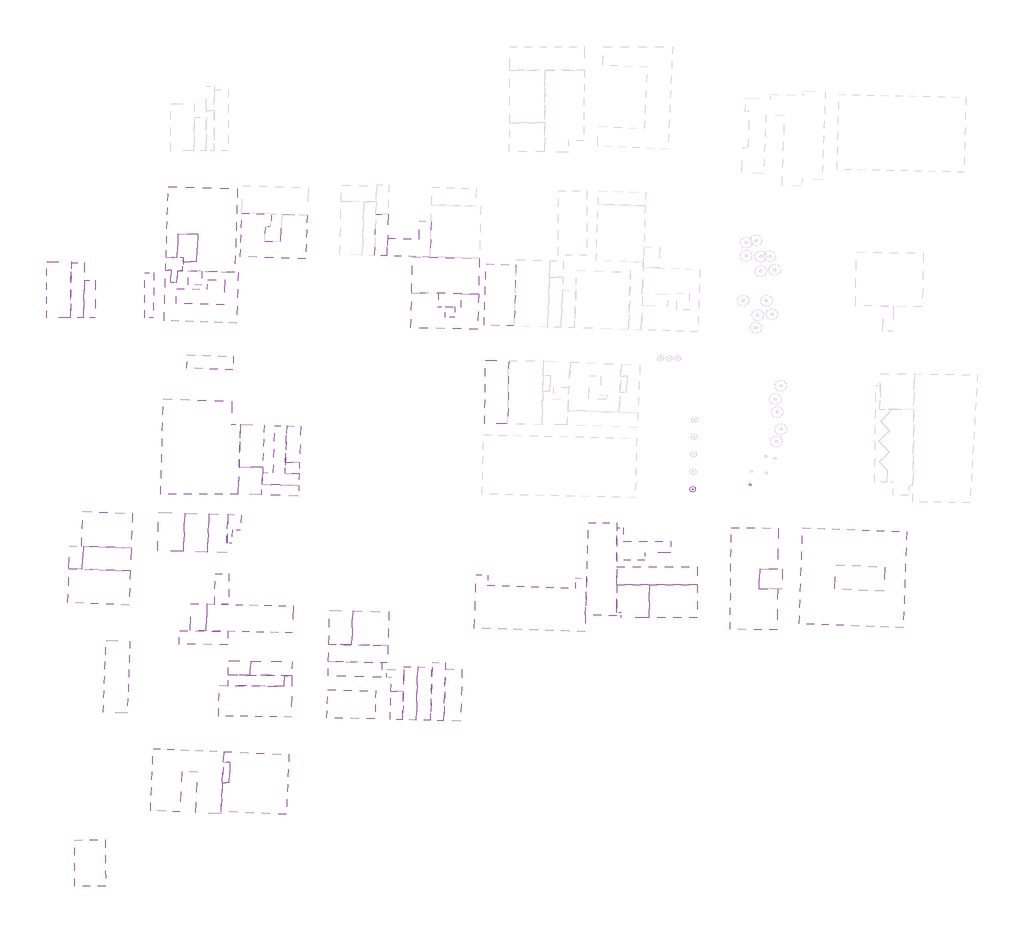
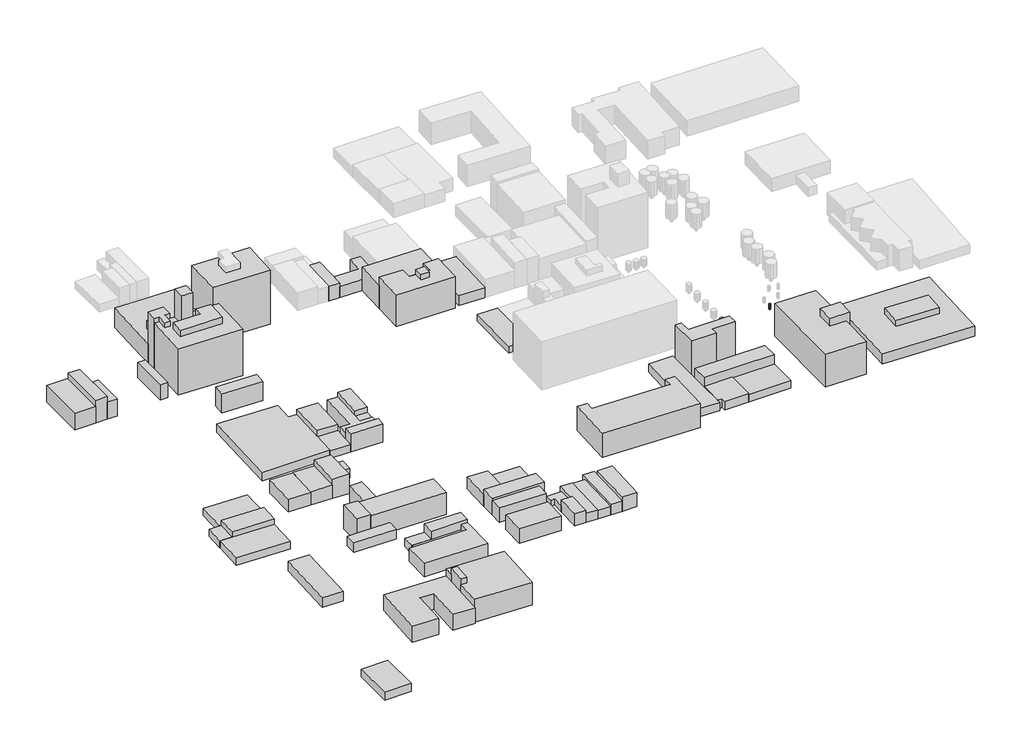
# One storey, part 1 of 4: 71 proxies.
"""IFC4 building model written with IfcOpenShell, lengths in millimetres."""

from ifc_helpers import new_model, si_unit, frame, origin, place, context, project, spatial, polyline, outline, extrude, triangles, element, save

model = new_model("IFC4")

# Units and contexts
model_context = context("Model", 3, world=origin())
ifc_project = project(units=[si_unit("LENGTHUNIT", "METRE", prefix="MILLI")], contexts=[model_context])

# Site, building, storey
site = spatial("IfcSite", under=ifc_project)
building = spatial("IfcBuilding", under=site)
storey = spatial("IfcBuildingStorey", under=building, Name="Terrain Minimum Level", Elevation=-10557.5420791)

# Proxies
placement = place(None, origin())
element("IfcBuildingElementProxy", 1, Name="Generic Models", at=placement, inside=storey, context=model_context, shape_type="Tessellation", body=[
    triangles([(90026.0211914, -6549.0461838, -1683.1694996), (90026.0211914, -6244.2461838, -1683.1694996), (89914.46521, -6132.6820633, -1683.1694996), (89762.06521, -6091.8461838, -1683.1694996), (89609.66521, -6132.6820633, -1683.1694996), (89609.66521, -6660.6108856, -1683.1694996), (89914.46521, -6660.6108856, -1683.1694996), (89762.06521, -6701.4461838, -1683.1694996), (89914.46521, -6660.6108856, -3207.1696449), (89762.06521, -6701.4461838, -3207.1696449), (89498.0999268, -6549.0461838, -3207.1696449), (89762.06521, -6091.8461838, -3207.1696449), (89914.46521, -6132.6820633, -3207.1696449), (90026.0211914, -6244.2461838, -3207.1696449), (90066.86521, -6396.6461838, -3207.1696449), (90026.0211914, -6549.0461838, -3207.1696449), (90066.86521, -6396.6461838, -1683.1694996), (89609.66521, -6132.6820633, -3207.1696449), (89498.0999268, -6244.2461838, -3207.1696449), (89498.0999268, -6244.2461838, -1683.1694996), (89457.26521, -6396.6461838, -3207.1696449), (89498.0999268, -6549.0461838, -1683.1694996), (89457.26521, -6396.6461838, -1683.1694996), (89609.66521, -6660.6108856, -3207.1696449)], [[16, 17, 1], [16, 15, 17], [9, 1, 7], [9, 16, 1], [10, 7, 8], [10, 9, 7], [24, 8, 6], [24, 10, 8], [11, 6, 22], [11, 24, 6], [21, 22, 23], [21, 11, 22], [19, 23, 20], [19, 21, 23], [18, 20, 5], [18, 19, 20], [12, 5, 4], [12, 18, 5], [13, 4, 3], [13, 12, 4], [14, 3, 2], [14, 13, 3], [15, 2, 17], [15, 14, 2], [14, 15, 16], [12, 13, 14], [19, 18, 12], [11, 21, 19], [10, 24, 11], [16, 9, 10], [12, 14, 16], [11, 19, 12], [16, 10, 11], [11, 12, 16], [1, 4, 22], [22, 8, 1], [4, 20, 22], [1, 2, 4], [8, 7, 1], [22, 6, 8], [20, 23, 22], [4, 5, 20], [2, 3, 4], [1, 17, 2]]),
])
element("IfcBuildingElementProxy", 2, Name="Generic Models", at=placement, inside=storey, context=model_context, shape_type="Tessellation", body=[
    triangles([(91081.8823242, -7158.6467651, 2888.8306458), (91081.8823242, -5634.6461838, 2888.8306458), (90524.06521, -5076.8238373, 2888.8306458), (89762.06521, -4872.6464745, 2888.8306458), (89000.06521, -5076.8238373, 2888.8306458), (89000.06521, -7716.4691116, 2888.8306458), (90524.06521, -7716.4691116, 2888.8306458), (89762.06521, -7920.6467651, 2888.8306458), (90524.06521, -7716.4691116, -1683.1694996), (89762.06521, -7920.6467651, -1683.1694996), (88442.2387939, -7158.6467651, -1683.1694996), (89762.06521, -4872.6464745, -1683.1694996), (90524.06521, -5076.8238373, -1683.1694996), (91081.8823242, -5634.6461838, -1683.1694996), (91286.06521, -6396.6461838, -1683.1694996), (91081.8823242, -7158.6467651, -1683.1694996), (91286.06521, -6396.6461838, 2888.8306458), (89000.06521, -5076.8238373, -1683.1694996), (88442.2387939, -5634.6461838, -1683.1694996), (88442.2387939, -5634.6461838, 2888.8306458), (88238.06521, -6396.6461838, -1683.1694996), (88442.2387939, -7158.6467651, 2888.8306458), (88238.06521, -6396.6461838, 2888.8306458), (89000.06521, -7716.4691116, -1683.1694996)], [[16, 17, 1], [16, 15, 17], [9, 1, 7], [9, 16, 1], [10, 7, 8], [10, 9, 7], [24, 8, 6], [24, 10, 8], [11, 6, 22], [11, 24, 6], [21, 22, 23], [21, 11, 22], [19, 23, 20], [19, 21, 23], [18, 20, 5], [18, 19, 20], [12, 5, 4], [12, 18, 5], [13, 4, 3], [13, 12, 4], [14, 3, 2], [14, 13, 3], [15, 2, 17], [15, 14, 2], [14, 15, 16], [12, 13, 14], [19, 18, 12], [11, 21, 19], [10, 24, 11], [16, 9, 10], [12, 14, 16], [11, 19, 12], [16, 10, 11], [11, 12, 16], [1, 4, 22], [22, 8, 1], [4, 20, 22], [1, 2, 4], [8, 7, 1], [22, 6, 8], [20, 23, 22], [4, 5, 20], [2, 3, 4], [1, 17, 2]]),
])
element("IfcBuildingElementProxy", 3, Name="Generic Models", at=placement, inside=storey, context=model_context, shape_type="Tessellation", body=[
    triangles([(120338.1058594, -4359.3138542, 441.9999104), (120338.1058594, -3749.7138542, 441.9999104), (120114.975293, -3526.5847412, 441.9999104), (119810.175293, -3444.9138542, 441.9999104), (119505.375293, -3526.5847412, 441.9999104), (119505.375293, -4582.4426765, 441.9999104), (120114.975293, -4582.4426765, 441.9999104), (119810.175293, -4664.1138542, 441.9999104), (120114.975293, -4582.4426765, -2606.000235), (119810.175293, -4664.1138542, -2606.000235), (119282.2447266, -4359.3138542, -2606.000235), (119810.175293, -3444.9138542, -2606.000235), (120114.975293, -3526.5847412, -2606.000235), (120338.1058594, -3749.7138542, -2606.000235), (120419.775293, -4054.5138542, -2606.000235), (120338.1058594, -4359.3138542, -2606.000235), (120419.775293, -4054.5138542, 441.9999104), (119505.375293, -3526.5847412, -2606.000235), (119282.2447266, -3749.7138542, -2606.000235), (119282.2447266, -3749.7138542, 441.9999104), (119200.575293, -4054.5138542, -2606.000235), (119282.2447266, -4359.3138542, 441.9999104), (119200.575293, -4054.5138542, 441.9999104), (119505.375293, -4582.4426765, -2606.000235)], [[16, 17, 1], [16, 15, 17], [9, 1, 7], [9, 16, 1], [10, 7, 8], [10, 9, 7], [24, 8, 6], [24, 10, 8], [11, 6, 22], [11, 24, 6], [21, 22, 23], [21, 11, 22], [19, 23, 20], [19, 21, 23], [18, 20, 5], [18, 19, 20], [12, 5, 4], [12, 18, 5], [13, 4, 3], [13, 12, 4], [14, 3, 2], [14, 13, 3], [15, 2, 17], [15, 14, 2], [14, 15, 16], [12, 13, 14], [19, 18, 12], [11, 21, 19], [10, 24, 11], [16, 9, 10], [12, 14, 16], [11, 19, 12], [16, 10, 11], [11, 12, 16], [1, 4, 22], [22, 8, 1], [4, 20, 22], [1, 2, 4], [8, 7, 1], [22, 6, 8], [20, 23, 22], [4, 5, 20], [2, 3, 4], [1, 17, 2]]),
])
element("IfcBuildingElementProxy", 4, Name="Generic Models", at=placement, inside=storey, context=model_context, shape_type="SweptSolid", body=[
    extrude(outline(polyline([(-229472.4761022, 83578.9634419), (-236326.5440598, 83604.1081294), (-236221.0179102, 112368.9675697), (-229366.9517912, 112343.8228889), (-229472.4761022, 83578.9634419)])), frame((0.0, 0.0, -3968.6315109), z_axis=(0.0, 0.0, 1.0), x_axis=(1.0, 0.0, 0.0)), (0.0, 0.0, 1.0), 14325.6),
])
element("IfcBuildingElementProxy", 5, Name="Generic Models", at=placement, inside=storey, context=model_context, shape_type="SweptSolid", body=[
    extrude(outline(polyline([(-236326.5440967, 83604.1077177), (-249073.6874552, 83650.8714099), (-248965.9336945, 113023.0738584), (-236218.7903361, 112976.3101662), (-236326.5440967, 83604.1077177)])), frame((0.0, 0.0, -3968.6313461), z_axis=(0.0, 0.0, 1.0), x_axis=(1.0, 0.0, 0.0)), (0.0, 0.0, 1.0), 10363.2),
])
element("IfcBuildingElementProxy", 6, Name="Generic Models", at=placement, inside=storey, context=model_context, shape_type="SweptSolid", body=[
    extrude(outline(polyline([(-120311.6903766, -96774.2754631), (-120412.1610448, -104194.024731), (-142158.5238174, -103899.5576918), (-142058.0531492, -96479.808424), (-120311.6903766, -96774.2754631)])), frame((0.0, 0.0, -2785.109722), z_axis=(0.0, 0.0, 1.0), x_axis=(1.0, 0.0, 0.0)), (0.0, 0.0, 1.0), 10363.2),
])
element("IfcBuildingElementProxy", 7, Name="Generic Models", at=placement, inside=storey, context=model_context, shape_type="SweptSolid", body=[
    extrude(outline(polyline([(-120412.1615022, -104194.0246936), (-120705.9016591, -125886.7410956), (-158771.5980123, -125371.2951085), (-158553.6381753, -109274.9819238), (-124458.3389563, -109736.6649309), (-124382.5581785, -104140.2617199), (-120412.1615022, -104194.0246936)])), frame((0.0, 0.0, -2785.1098158), z_axis=(0.0, 0.0, 1.0), x_axis=(1.0, 0.0, 0.0)), (0.0, 0.0, 1.0), 8534.4),
])
element("IfcBuildingElementProxy", 8, Name="Generic Models", at=placement, inside=storey, context=model_context, shape_type="SweptSolid", body=[
    extrude(outline(polyline([(-124382.5577816, -104140.2618905), (-124458.3386501, -109736.6650125), (-153808.1387657, -109339.2403739), (-153732.3580508, -103742.8363822), (-124382.5577816, -104140.2618905)])), frame((0.0, 0.0, -2785.1098089), z_axis=(0.0, 0.0, 1.0), x_axis=(1.0, 0.0, 0.0)), (0.0, 0.0, 1.0), 5133.7580057),
])
element("IfcBuildingElementProxy", 9, Name="Generic Models", at=placement, inside=storey, context=model_context, shape_type="SweptSolid", body=[
    extrude(outline(polyline([(-142058.0526914, -96479.8084302), (-142158.5241867, -103899.5575961), (-153732.3578943, -103742.8363106), (-153631.8870545, -96323.086091), (-142058.0526914, -96479.8084302)])), frame((0.0, 0.0, -2785.109722), z_axis=(0.0, 0.0, 1.0), x_axis=(1.0, 0.0, 0.0)), (0.0, 0.0, 1.0), 5181.6),
])
element("IfcBuildingElementProxy", 10, Name="Generic Models", at=placement, inside=storey, context=model_context, shape_type="SweptSolid", body=[
    extrude(outline(polyline([(-153964.7423959, -80918.1443134), (-154063.7219919, -87987.4529924), (-179414.6113594, -87632.5072825), (-179315.6317634, -80563.1986034), (-153964.7423959, -80918.1443134)])), frame((0.0, 0.0, -2785.1097357), z_axis=(0.0, 0.0, 1.0), x_axis=(1.0, 0.0, 0.0)), (0.0, 0.0, 1.0), 6045.8498396),
])
element("IfcBuildingElementProxy", 11, Name="Generic Models", at=placement, inside=storey, context=model_context, shape_type="SweptSolid", body=[
    extrude(outline(polyline([(-164976.1136014, -66519.3231536), (-165306.0944516, -80653.3625556), (-173686.9124185, -80457.6994929), (-173356.9315682, -66323.6600909), (-164976.1136014, -66519.3231536)])), frame((0.0, 0.0, -2785.1097357), z_axis=(0.0, 0.0, 1.0), x_axis=(1.0, 0.0, 0.0)), (0.0, 0.0, 1.0), 15171.2737562),
])
element("IfcBuildingElementProxy", 12, Name="Generic Models", at=placement, inside=storey, context=model_context, shape_type="SweptSolid", body=[
    extrude(outline(polyline([(-153691.1134574, -66782.7889507), (-160896.1576048, -66656.9743523), (-160616.2716015, -50628.699124), (-153411.2274536, -50754.513692), (-153691.1134574, -66782.7889507)])), frame((0.0, 0.0, -2785.1097357), z_axis=(0.0, 0.0, 1.0), x_axis=(1.0, 0.0, 0.0)), (0.0, 0.0, 1.0), 13388.1030585),
])
element("IfcBuildingElementProxy", 13, Name="Generic Models", at=placement, inside=storey, context=model_context, shape_type="SweptSolid", body=[
    extrude(outline(polyline([(49913.4203683, -43688.5119676), (49912.7935381, -26543.3285021), (53442.3089616, -26543.1994625), (53442.5679043, -33625.8508985), (78405.4840492, -33624.938251), (78405.7018935, -39583.4572914), (64647.6013196, -39583.9602893), (64647.7513629, -43687.9732785), (49913.4203683, -43688.5119676)])), frame((0.0, 0.0, -1386.9867751), z_axis=(0.0, 0.0, 1.0), x_axis=(1.0, 0.0, 0.0)), (0.0, 0.0, 1.0), 26517.6),
])
element("IfcBuildingElementProxy", 14, Name="Generic Models", at=placement, inside=storey, context=model_context, shape_type="SweptSolid", body=[
    extrude(outline(polyline([(49912.6984051, -23963.2947936), (49914.4826176, -72775.0355391), (33601.4820036, -72230.8324956), (35211.6731086, -23963.8321593), (49912.6984051, -23963.2947936)])), frame((0.0, 0.0, -1386.98665), z_axis=(0.0, 0.0, 1.0), x_axis=(1.0, 0.0, 0.0)), (0.0, 0.0, 1.0), 5181.6),
])
element("IfcBuildingElementProxy", 15, Name="Generic Models", at=placement, inside=storey, context=model_context, shape_type="SweptSolid", body=[
    extrude(outline(polyline([(34238.8900751, -53123.9339391), (33601.482448, -72230.8327994), (33304.4615296, -81134.3168566), (-24634.1443817, -79201.4804719), (-23699.7158361, -51191.0975544), (-17682.3759177, -51391.8364805), (-17857.4841881, -56640.8731554), (28414.963928, -58184.5256117), (28590.0721984, -52935.4889368), (34238.8900751, -53123.9339391)])), frame((0.0, 0.0, -1386.9866969), z_axis=(0.0, 0.0, 1.0), x_axis=(1.0, 0.0, 0.0)), (0.0, 0.0, 1.0), 15240.0),
])
element("IfcBuildingElementProxy", 16, Name="Generic Models", at=placement, inside=storey, context=model_context, shape_type="SweptSolid", body=[
    extrude(outline(polyline([(-100597.4201309, -69901.3917486), (-88498.0358619, -70198.4830037), (-88934.3597431, -87968.2766742), (-101033.7440121, -87671.185419), (-100597.4201309, -69901.3917486)])), frame((0.0, 0.0, -704.478343), z_axis=(0.0, 0.0, 1.0), x_axis=(1.0, 0.0, 0.0)), (0.0, 0.0, 1.0), 7620.0),
])
element("IfcBuildingElementProxy", 17, Name="Generic Models", at=placement, inside=storey, context=model_context, shape_type="SweptSolid", body=[
    extrude(outline(polyline([(-88498.0357233, -70198.4831982), (-69606.9612653, -70662.3390924), (-70043.2853959, -88432.1330512), (-88934.3594321, -87968.2771674), (-88498.0357233, -70198.4831982)])), frame((0.0, 0.0, -704.4782858), z_axis=(0.0, 0.0, 1.0), x_axis=(1.0, 0.0, 0.0)), (0.0, 0.0, 1.0), 3936.2892532),
])
element("IfcBuildingElementProxy", 18, Name="Generic Models", at=placement, inside=storey, context=model_context, shape_type="SweptSolid", body=[
    extrude(outline(polyline([(-101033.7441507, -87671.1852246), (-70043.2853182, -88432.1332285), (-70264.7088395, -97449.8547816), (-101255.1676963, -96688.9068541), (-101033.7441507, -87671.1852246)])), frame((0.0, 0.0, -704.4782858), z_axis=(0.0, 0.0, 1.0), x_axis=(1.0, 0.0, 0.0)), (0.0, 0.0, 1.0), 10668.0),
])
element("IfcBuildingElementProxy", 19, Name="Generic Models", at=placement, inside=storey, context=model_context, shape_type="SweptSolid", body=[
    extrude(outline(polyline([(-73213.6395074, -97377.4458781), (-73400.9303723, -105005.0788163), (-101442.4581909, -104316.5399156), (-101255.167326, -96688.9069774), (-73213.6395074, -97377.4458781)])), frame((0.0, 0.0, -704.4783964), z_axis=(0.0, 0.0, 1.0), x_axis=(1.0, 0.0, 0.0)), (0.0, 0.0, 1.0), 9144.0),
])
element("IfcBuildingElementProxy", 20, Name="Generic Models", at=placement, inside=storey, context=model_context, shape_type="SweptSolid", body=[
    extrude(outline(polyline([(-101620.5583474, -111569.8635551), (-76529.5626052, -112185.9542331), (-76890.4951511, -126885.3439462), (-101981.4908933, -126269.2532682), (-101620.5583474, -111569.8635551)])), frame((0.0, 0.0, -704.4784231), z_axis=(0.0, 0.0, 1.0), x_axis=(1.0, 0.0, 0.0)), (0.0, 0.0, 1.0), 9144.0000534),
])
element("IfcBuildingElementProxy", 21, Name="Generic Models", at=placement, inside=storey, context=model_context, shape_type="SweptSolid", body=[
    extrude(outline(polyline([(-68821.8425921, -127083.463329), (-68459.5385781, -112328.2213008), (-61922.6830679, -112488.728935), (-62284.9870819, -127243.9709632), (-68821.8425921, -127083.463329)])), frame((0.0, 0.0, -704.4784231), z_axis=(0.0, 0.0, 1.0), x_axis=(1.0, 0.0, 0.0)), (0.0, 0.0, 1.0), 7620.0),
])
element("IfcBuildingElementProxy", 22, Name="Generic Models", at=placement, inside=storey, context=model_context, shape_type="SweptSolid", body=[
    extrude(outline(polyline([(-61922.6831143, -112488.729036), (-68459.5385625, -112328.2214201), (-68282.8100024, -105130.7495455), (-70695.5837839, -105071.5056765), (-70591.3359178, -100825.8926069), (-61641.7066878, -101045.6440856), (-61922.6831143, -112488.729036)])), frame((0.0, 0.0, -704.4783659), z_axis=(0.0, 0.0, 1.0), x_axis=(1.0, 0.0, 0.0)), (0.0, 0.0, 1.0), 3657.6),
])
element("IfcBuildingElementProxy", 23, Name="Generic Models", at=placement, inside=storey, context=model_context, shape_type="SweptSolid", body=[
    extrude(outline(polyline([(-62284.9870865, -127243.9709069), (-61601.1995737, -99395.9405889), (-54459.7578912, -99571.293337), (-55143.5452257, -127419.3236594), (-62284.9870865, -127243.9709069)])), frame((0.0, 0.0, -704.4783659), z_axis=(0.0, 0.0, 1.0), x_axis=(1.0, 0.0, 0.0)), (0.0, 0.0, 1.0), 5791.2),
])
element("IfcBuildingElementProxy", 24, Name="Generic Models", at=placement, inside=storey, context=model_context, shape_type="SweptSolid", body=[
    extrude(outline(polyline([(-55143.5452508, -127419.3232176), (-54459.7579049, -99571.2931273), (-46901.7631009, -99756.8739813), (-47585.5504468, -127604.9040716), (-55143.5452508, -127419.3232176)])), frame((0.0, 0.0, -704.4784464), z_axis=(0.0, 0.0, 1.0), x_axis=(1.0, 0.0, 0.0)), (0.0, 0.0, 1.0), 5486.4),
])
element("IfcBuildingElementProxy", 25, Name="Generic Models", at=placement, inside=storey, context=model_context, shape_type="SweptSolid", body=[
    extrude(outline(polyline([(-47585.5504275, -127604.9042482), (-46838.412205, -97176.8364736), (-39868.2203343, -97347.9842705), (-40615.3585569, -127776.0520452), (-47585.5504275, -127604.9042482)])), frame((0.0, 0.0, -704.4785101), z_axis=(0.0, 0.0, 1.0), x_axis=(1.0, 0.0, 0.0)), (0.0, 0.0, 1.0), 6705.6),
])
element("IfcBuildingElementProxy", 26, Name="Generic Models", at=placement, inside=storey, context=model_context, shape_type="SweptSolid", body=[
    extrude(outline(polyline([(-40615.3586533, -127776.05249), (-39948.2876689, -100608.8166276), (-31186.7517476, -100823.9495333), (-31853.822732, -127991.1853957), (-40615.3586533, -127776.05249)])), frame((0.0, 0.0, -704.4784025), z_axis=(0.0, 0.0, 1.0), x_axis=(1.0, 0.0, 0.0)), (0.0, 0.0, 1.0), 9144.0),
])
element("IfcBuildingElementProxy", 27, Name="Generic Models", at=placement, inside=storey, context=model_context, shape_type="SweptSolid", body=[
    extrude(outline(polyline([(92208.9823346, -46938.4978792), (92209.3312215, -56485.3763923), (49913.8870959, -56486.9220627), (49913.538294, -46940.0435497), (92208.9823346, -46938.4978792)])), frame((0.0, 0.0, -1386.986328), z_axis=(0.0, 0.0, 1.0), x_axis=(1.0, 0.0, 0.0)), (0.0, 0.0, 1.0), 10972.8),
])
element("IfcBuildingElementProxy", 28, Name="Generic Models", at=placement, inside=storey, context=model_context, shape_type="SweptSolid", body=[
    extrude(outline(polyline([(92209.3305708, -56485.3764253), (92209.9594248, -73685.4404752), (66951.2959901, -73686.3639609), (66950.6675186, -56486.2999109), (92209.3305708, -56485.3764253)])), frame((0.0, 0.0, -1386.9864554), z_axis=(0.0, 0.0, 1.0), x_axis=(1.0, 0.0, 0.0)), (0.0, 0.0, 1.0), 4876.8),
])
element("IfcBuildingElementProxy", 29, Name="Generic Models", at=placement, inside=storey, context=model_context, shape_type="SweptSolid", body=[
    extrude(outline(polyline([(49913.8879896, -56486.9218545), (66950.6671704, -56486.2999187), (66951.2956418, -73686.3636242), (52396.3736345, -73686.8949586), (52396.2790207, -71097.4958161), (49914.4213589, -71097.5865005), (49913.8879896, -56486.9218545)])), frame((0.0, 0.0, -1386.9864554), z_axis=(0.0, 0.0, 1.0), x_axis=(1.0, 0.0, 0.0)), (0.0, 0.0, 1.0), 5486.4),
])
element("IfcBuildingElementProxy", 30, Name="Generic Models", at=placement, inside=storey, context=model_context, shape_type="SweptSolid", body=[
    extrude(outline(polyline([(136588.8164916, -58731.5774159), (124674.93859, -58495.3544436), (124878.8077337, -48213.2380953), (136792.6856353, -48449.4610677), (136588.8164916, -58731.5774159)])), frame((0.0, 0.0, -2484.2355786), z_axis=(0.0, 0.0, 1.0), x_axis=(1.0, 0.0, 0.0)), (0.0, 0.0, 1.0), 24993.6),
])
element("IfcBuildingElementProxy", 31, Name="Generic Models", at=placement, inside=storey, context=model_context, shape_type="SweptSolid", body=[
    extrude(outline(polyline([(110037.2570723, -26530.664667), (134655.5229578, -26770.4878075), (134444.7869562, -48402.9078926), (124878.8074062, -48213.2381692), (124674.9384593, -58495.3545902), (134344.6018948, -58687.0801087), (134135.6590438, -80135.4301417), (109517.3931583, -79895.6070013), (110037.2570723, -26530.664667)])), frame((0.0, 0.0, -3132.0451338), z_axis=(0.0, 0.0, 1.0), x_axis=(1.0, 0.0, 0.0)), (0.0, 0.0, 1.0), 20726.4),
])
element("IfcBuildingElementProxy", 32, Name="Generic Models", at=placement, inside=storey, context=model_context, shape_type="SweptSolid", body=[
    extrude(outline(polyline([(165014.2748782, -45938.2306298), (190564.4803746, -47190.4025138), (189940.1299583, -59930.0923605), (164389.9244619, -58677.9204764), (165014.2748782, -45938.2306298)])), frame((0.0, 0.0, -2370.1860804), z_axis=(0.0, 0.0, 1.0), x_axis=(1.0, 0.0, 0.0)), (0.0, 0.0, 1.0), 9753.6),
])
element("IfcBuildingElementProxy", 33, Name="Generic Models", at=placement, inside=storey, context=model_context, shape_type="SweptSolid", body=[
    extrude(outline(polyline([(147500.9882956, -26673.1071911), (201996.6112906, -28586.5339531), (200228.7973987, -78935.0088928), (145733.1744037, -77021.5821308), (147500.9882956, -26673.1071911)])), frame((0.0, 0.0, -2818.0357797), z_axis=(0.0, 0.0, 1.0), x_axis=(1.0, 0.0, 0.0)), (0.0, 0.0, 1.0), 6400.8),
])
element("IfcBuildingElementProxy", 34, Name="Generic Models", at=placement, inside=storey, context=model_context, shape_type="SweptSolid", body=[
    extrude(outline(polyline([(-204025.9236943, -19033.4271737), (-204724.2541928, -37254.6118394), (-230723.6065824, -36258.1815276), (-230025.2760838, -18036.9968619), (-204025.9236943, -19033.4271737)])), frame((0.0, 0.0, -3647.1645629), z_axis=(0.0, 0.0, 1.0), x_axis=(1.0, 0.0, 0.0)), (0.0, 0.0, 1.0), 4572.0),
])
element("IfcBuildingElementProxy", 35, Name="Generic Models", at=placement, inside=storey, context=model_context, shape_type="SweptSolid", body=[
    extrude(outline(polyline([(-204724.2543504, -37254.6119144), (-205184.2410152, -49256.8104223), (-230255.5235407, -48295.9484914), (-229795.5368758, -36293.7499836), (-204724.2543504, -37254.6119144)])), frame((0.0, 0.0, -3647.1645762), z_axis=(0.0, 0.0, 1.0), x_axis=(1.0, 0.0, 0.0)), (0.0, 0.0, 1.0), 7924.8),
])
element("IfcBuildingElementProxy", 36, Name="Generic Models", at=placement, inside=storey, context=model_context, shape_type="SweptSolid", body=[
    extrude(outline(polyline([(-229795.5367956, -36293.7500134), (-230255.5234823, -48295.9487095), (-237489.7089879, -48018.6970904), (-237029.7223012, -36016.4983943), (-229795.5367956, -36293.7500134)])), frame((0.0, 0.0, -3647.1645358), z_axis=(0.0, 0.0, 1.0), x_axis=(1.0, 0.0, 0.0)), (0.0, 0.0, 1.0), 4571.9999863),
])
element("IfcBuildingElementProxy", 37, Name="Generic Models", at=placement, inside=storey, context=model_context, shape_type="SweptSolid", body=[
    extrude(outline(polyline([(-205184.2410955, -49256.8103924), (-205868.8855339, -67120.8895562), (-237824.6083348, -65896.1800322), (-237139.9639053, -48032.1010988), (-205184.2410955, -49256.8103924)])), frame((0.0, 0.0, -3647.1645358), z_axis=(0.0, 0.0, 1.0), x_axis=(1.0, 0.0, 0.0)), (0.0, 0.0, 1.0), 4572.0000065),
])
element("IfcBuildingElementProxy", 38, Name="Generic Models", at=placement, inside=storey, context=model_context, shape_type="SweptSolid", body=[
    extrude(outline(polyline([(-206752.7692812, -123857.9649222), (-219251.4993537, -123400.2209933), (-217865.3255542, -85550.6482091), (-205366.5954817, -86008.392138), (-206752.7692812, -123857.9649222)])), frame((0.0, 0.0, -2254.4494261), z_axis=(0.0, 0.0, 1.0), x_axis=(1.0, 0.0, 0.0)), (0.0, 0.0, 1.0), 6096.0),
])
element("IfcBuildingElementProxy", 39, Name="Generic Models", at=placement, inside=storey, context=model_context, shape_type="SweptSolid", body=[
    extrude(outline(polyline([(-234192.4480102, -214671.6443029), (-234339.1465484, -190364.1530319), (-218274.2343802, -190267.1994176), (-218127.5358419, -214574.6906886), (-234192.4480102, -214671.6443029)])), frame((0.0, 0.0, -833.5714196), z_axis=(0.0, 0.0, 1.0), x_axis=(1.0, 0.0, 0.0)), (0.0, 0.0, 1.0), 4876.8),
])
element("IfcBuildingElementProxy", 40, Name="Generic Models", at=placement, inside=storey, context=model_context, shape_type="SweptSolid", body=[
    extrude(outline(polyline([(-193100.7957623, -142371.5114956), (-156135.3780587, -143995.9570674), (-157565.8108947, -176546.4765777), (-170839.2845337, -175963.1736742), (-169910.7212209, -154833.0531464), (-178151.0578099, -154470.9314902), (-179079.6211227, -175601.0520179), (-194531.2285982, -174922.0310059), (-193100.7957623, -142371.5114956)])), frame((0.0, 0.0, -1864.9423232), z_axis=(0.0, 0.0, 1.0), x_axis=(1.0, 0.0, 0.0)), (0.0, 0.0, 1.0), 10058.4),
])
element("IfcBuildingElementProxy", 41, Name="Generic Models", at=placement, inside=storey, context=model_context, shape_type="SweptSolid", body=[
    extrude(outline(polyline([(-156850.5943975, -160271.2169942), (-156374.491934, -149437.1693184), (-152857.6895228, -149591.7152777), (-153333.7919863, -160425.7629536), (-156850.5943975, -160271.2169942)])), frame((0.0, 0.0, -1864.9424003), z_axis=(0.0, 0.0, 1.0), x_axis=(1.0, 0.0, 0.0)), (0.0, 0.0, 1.0), 18288.0),
])
element("IfcBuildingElementProxy", 42, Name="Generic Models", at=placement, inside=storey, context=model_context, shape_type="SweptSolid", body=[
    extrude(outline(polyline([(-156135.3777608, -143995.9574994), (-121997.3992835, -145496.1515429), (-123380.2618612, -176964.1693777), (-157518.2404873, -175463.9753277), (-156850.5943975, -160271.2169942), (-153333.7919807, -160425.7631636), (-152857.6895094, -149591.7153692), (-156374.4919014, -149437.169201), (-156135.3777608, -143995.9574994)])), frame((0.0, 0.0, -1864.9424003), z_axis=(0.0, 0.0, 1.0), x_axis=(1.0, 0.0, 0.0)), (0.0, 0.0, 1.0), 14630.4),
])
element("IfcBuildingElementProxy", 43, Name="Generic Models", at=placement, inside=storey, context=model_context, shape_type="SweptSolid", body=[
    extrude(outline(polyline([(-223523.3501767, 83557.1389861), (-229472.4762145, 83578.963324), (-229400.4833868, 103203.5863598), (-223451.357349, 103181.7620218), (-223523.3501767, 83557.1389861)])), frame((0.0, 0.0, -3968.6315109), z_axis=(0.0, 0.0, 1.0), x_axis=(1.0, 0.0, 0.0)), (0.0, 0.0, 1.0), 10858.1523895),
])
element("IfcBuildingElementProxy", 44, Name="Generic Models", at=placement, inside=storey, context=model_context, shape_type="SweptSolid", body=[
    extrude(outline(polyline([(-197537.19121, 83461.8078102), (-197449.8624459, 107266.7167268), (-192923.9549913, 107250.1133487), (-193011.2837554, 83445.204432), (-197537.19121, 83461.8078102)])), frame((0.0, 0.0, -2864.0788842), z_axis=(0.0, 0.0, 1.0), x_axis=(1.0, 0.0, 0.0)), (0.0, 0.0, 1.0), 9448.8),
])
element("IfcBuildingElementProxy", 45, Name="Generic Models", at=placement, inside=storey, context=model_context, shape_type="SweptSolid", body=[
    extrude(outline(polyline([(-119777.7058799, -67574.5497599), (-120107.6868978, -81708.5894744), (-165306.0940463, -80653.3627522), (-164976.1130284, -66519.3230376), (-119777.7058799, -67574.5497599)])), frame((0.0, 0.0, -2785.1099173), z_axis=(0.0, 0.0, 1.0), x_axis=(1.0, 0.0, 0.0)), (0.0, 0.0, 1.0), 14020.8),
])
element("IfcBuildingElementProxy", 46, Name="Generic Models", at=placement, inside=storey, context=model_context, shape_type="SweptSolid", body=[
    extrude(outline(polyline([(-153978.3696594, -19602.1476997), (-147012.2057121, -19896.3523375), (-147351.0793253, -27920.1862361), (-151757.244589, -27734.0989913), (-152048.9956816, -34642.1680071), (-154608.9943651, -34534.050614), (-153978.3696594, -19602.1476997)])), frame((0.0, 0.0, -2785.109659), z_axis=(0.0, 0.0, 1.0), x_axis=(1.0, 0.0, 0.0)), (0.0, 0.0, 1.0), 6096.0),
])
element("IfcBuildingElementProxy", 47, Name="Generic Models", at=placement, inside=storey, context=model_context, shape_type="SweptSolid", body=[
    extrude(outline(polyline([(-164538.3813232, -39382.3657146), (-163968.7907547, -19318.5305706), (-153978.3698592, -19602.1478091), (-154547.9604278, -39665.9829532), (-164538.3813232, -39382.3657146)])), frame((0.0, 0.0, -2785.1094645), z_axis=(0.0, 0.0, 1.0), x_axis=(1.0, 0.0, 0.0)), (0.0, 0.0, 1.0), 12192.0),
])
element("IfcBuildingElementProxy", 48, Name="Generic Models", at=placement, inside=storey, context=model_context, shape_type="SweptSolid", body=[
    extrude(outline(polyline([(-177235.9797679, -39021.8943122), (-176666.3891993, -18958.0591682), (-163968.7907673, -19318.5302475), (-164538.3813359, -39382.3653916), (-177235.9797679, -39021.8943122)])), frame((0.0, 0.0, -2785.1094713), z_axis=(0.0, 0.0, 1.0), x_axis=(1.0, 0.0, 0.0)), (0.0, 0.0, 1.0), 8534.4),
])
element("IfcBuildingElementProxy", 49, Name="Generic Models", at=placement, inside=storey, context=model_context, shape_type="SweptSolid", body=[
    extrude(outline(polyline([(-177235.9797063, -39021.8946487), (-190826.2660686, -38636.0811341), (-190256.6755157, -18572.2460723), (-176666.3891534, -18958.059587), (-177235.9797063, -39021.8946487)])), frame((0.0, 0.0, -2785.109495), z_axis=(0.0, 0.0, 1.0), x_axis=(1.0, 0.0, 0.0)), (0.0, 0.0, 1.0), 8229.6),
])
element("IfcBuildingElementProxy", 50, Name="Generic Models", at=placement, inside=storey, context=model_context, shape_type="SweptSolid", body=[
    extrude(outline(polyline([(-177438.1486653, 113034.3047475), (-177389.7839765, 114981.9280561), (-180536.8622168, 115081.8330883), (-180225.8281268, 127607.0298451), (-169820.6727451, 127276.7147705), (-170178.826372, 112854.0363855), (-177438.1486653, 113034.3047475)])), frame((0.0, 0.0, -2358.3103326), z_axis=(0.0, 0.0, 1.0), x_axis=(1.0, 0.0, 0.0)), (0.0, 0.0, 1.0), 17373.6),
])
element("IfcBuildingElementProxy", 51, Name="Generic Models", at=placement, inside=storey, context=model_context, shape_type="SweptSolid", body=[
    extrude(outline(polyline([(-150379.2273926, 107365.1061757), (-177590.6964382, 108228.9440916), (-177438.1486646, 113034.3047757), (-170178.8266088, 112854.0363234), (-169820.6727887, 127276.714794), (-180139.3325483, 127604.2840812), (-180536.8621732, 115081.832878), (-186386.1028616, 115267.5191535), (-185207.6754879, 152388.8038652), (-148986.4368316, 151238.947884), (-150379.2273926, 107365.1061757)])), frame((0.0, 0.0, -2663.2352432), z_axis=(0.0, 0.0, 1.0), x_axis=(1.0, 0.0, 0.0)), (0.0, 0.0, 1.0), 12496.8),
])
element("IfcBuildingElementProxy", 52, Name="Generic Models", at=placement, inside=storey, context=model_context, shape_type="SweptSolid", body=[
    extrude(outline(polyline([(-116416.3387855, 7552.6158195), (-123776.9803434, 7803.3760681), (-123129.6287024, 26805.2849353), (-115768.9871445, 26554.5246867), (-116416.3387855, 7552.6158195)])), frame((0.0, 0.0, -1324.8322134), z_axis=(0.0, 0.0, 1.0), x_axis=(1.0, 0.0, 0.0)), (0.0, 0.0, 1.0), 11582.4),
])
element("IfcBuildingElementProxy", 53, Name="Generic Models", at=placement, inside=storey, context=model_context, shape_type="SweptSolid", body=[
    extrude(outline(polyline([(-135976.4776027, -3822.3341406), (-116826.083163, -4474.7446478), (-117013.7072487, -9982.1287397), (-136164.1016884, -9329.7182325), (-135976.4776027, -3822.3341406)])), frame((0.0, 0.0, -1324.8323744), z_axis=(0.0, 0.0, 1.0), x_axis=(1.0, 0.0, 0.0)), (0.0, 0.0, 1.0), 11582.400322),
])
element("IfcBuildingElementProxy", 54, Name="Generic Models", at=placement, inside=storey, context=model_context, shape_type="SweptSolid", body=[
    extrude(outline(polyline([(-123129.6286128, 26805.2845677), (-123974.872076, 1994.5813132), (-116614.2309217, 1743.8210144), (-116826.083217, -4474.7445437), (-135976.4776567, -3822.3340365), (-135764.6254806, 2396.2310325), (-130150.5925792, 2204.9738737), (-129305.349116, 27015.6771282), (-123129.6286128, 26805.2845677)])), frame((0.0, 0.0, -1324.8323744), z_axis=(0.0, 0.0, 1.0), x_axis=(1.0, 0.0, 0.0)), (0.0, 0.0, 1.0), 8839.2),
])
element("IfcBuildingElementProxy", 55, Name="Generic Models", at=placement, inside=storey, context=model_context, shape_type="SweptSolid", body=[
    extrude(outline(polyline([(-123776.9801162, 7803.3762654), (-116416.3375237, 7552.6165489), (-116614.2305557, 1743.8206319), (-123974.8720352, 1994.581664), (-123776.9801162, 7803.3762654)])), frame((0.0, 0.0, -1324.8323744), z_axis=(0.0, 0.0, 1.0), x_axis=(1.0, 0.0, 0.0)), (0.0, 0.0, 1.0), 8229.6),
])
element("IfcBuildingElementProxy", 56, Name="Generic Models", at=placement, inside=storey, context=model_context, shape_type="SweptSolid", body=[
    extrude(outline(polyline([(-136164.1016344, -9329.7183367), (-148599.5971517, -8906.069207), (-148109.2684945, 5486.6897788), (-135673.7729772, 5063.0406491), (-136164.1016344, -9329.7183367)])), frame((0.0, 0.0, -1324.8323744), z_axis=(0.0, 0.0, 1.0), x_axis=(1.0, 0.0, 0.0)), (0.0, 0.0, 1.0), 4876.8),
])
element("IfcBuildingElementProxy", 57, Name="Generic Models", at=placement, inside=storey, context=model_context, shape_type="SweptSolid", body=[
    extrude(outline(polyline([(-175503.2575586, 57087.258829), (-175264.9326339, 64082.8814085), (-151059.212455, 63258.2476644), (-151297.5373797, 56262.6250849), (-175503.2575586, 57087.258829)])), frame((0.0, 0.0, -2867.5880717), z_axis=(0.0, 0.0, 1.0), x_axis=(1.0, 0.0, 0.0)), (0.0, 0.0, 1.0), 12192.0),
])
element("IfcBuildingElementProxy", 58, Name="Generic Models", at=placement, inside=storey, context=model_context, shape_type="SweptSolid", body=[
    extrude(outline(polyline([(-147354.875723, 27630.583337), (-148599.5971471, -8906.0690465), (-189227.7341123, -8937.5690015), (-187799.5756525, 41005.7653213), (-151859.0178886, 39781.3513766), (-152267.2658422, 27797.9374166), (-147354.875723, 27630.583337)])), frame((0.0, 0.0, -1324.8326247), z_axis=(0.0, 0.0, 1.0), x_axis=(1.0, 0.0, 0.0)), (0.0, 0.0, 1.0), 5486.4),
])
element("IfcBuildingElementProxy", 59, Name="Generic Models", at=placement, inside=storey, context=model_context, shape_type="SweptSolid", body=[
    extrude(outline(polyline([(-135673.7738455, 5063.0405181), (-148109.2683584, 5486.6897997), (-147354.8758016, 27630.5831262), (-134919.3812887, 27206.9338445), (-135673.7738455, 5063.0405181)])), frame((0.0, 0.0, -1324.8324045), z_axis=(0.0, 0.0, 1.0), x_axis=(1.0, 0.0, 0.0)), (0.0, 0.0, 1.0), 8839.2005331),
])
element("IfcBuildingElementProxy", 60, Name="Generic Models", at=placement, inside=storey, context=model_context, shape_type="SweptSolid", body=[
    extrude(outline(polyline([(-180683.6375914, 102020.4910324), (-183986.2489424, 102125.3332184), (-183786.2443647, 108425.623803), (-186600.4657469, 108514.9621056), (-186386.1038018, 115267.5189799), (-177389.7841213, 114981.9281657), (-177557.5046263, 108227.8904007), (-180483.6330137, 108320.781617), (-180683.6375914, 102020.4910324)])), frame((0.0, 0.0, -2358.3100442), z_axis=(0.0, 0.0, 1.0), x_axis=(1.0, 0.0, 0.0)), (0.0, 0.0, 1.0), 32613.6),
])
element("IfcBuildingElementProxy", 61, Name="Generic Models", at=placement, inside=storey, context=model_context, shape_type="SweptSolid", body=[
    extrude(outline(polyline([(-174631.3761393, 108134.9994963), (-148542.8675588, 107306.8104956), (-149385.1527066, 80774.2638371), (-187442.7509772, 81982.4158548), (-186600.4658294, 108514.9625133), (-183786.2439044, 108425.6240356), (-183986.2488755, 102125.3334035), (-180683.6375958, 102020.4908317), (-180483.6326248, 108320.7814637), (-174631.3761393, 108134.9994963)])), frame((0.0, 0.0, -2358.3099069), z_axis=(0.0, 0.0, 1.0), x_axis=(1.0, 0.0, 0.0)), (0.0, 0.0, 1.0), 29565.6),
])
element("IfcBuildingElementProxy", 62, Name="Generic Models", at=placement, inside=storey, context=model_context, shape_type="SweptSolid", body=[
    extrude(outline(polyline([(-167861.0628808, 100735.453335), (-174859.2249118, 100957.6125509), (-174631.3761349, 108134.9995112), (-167633.2141039, 107912.8402953), (-167861.0628808, 100735.453335)])), frame((0.0, 0.0, -2358.3107706), z_axis=(0.0, 0.0, 1.0), x_axis=(1.0, 0.0, 0.0)), (0.0, 0.0, 1.0), 47244.0),
])
element("IfcBuildingElementProxy", 63, Name="Generic Models", at=placement, inside=storey, context=model_context, shape_type="SweptSolid", body=[
    extrude(outline(polyline([(-155964.6782207, 90376.3083483), (-181082.72585, 91033.5625532), (-180877.100269, 98891.8814496), (-164686.3422659, 98468.224168), (-164552.0227402, 103601.4651896), (-155624.7331138, 103367.8682664), (-155964.6782207, 90376.3083483)])), frame((0.0, 0.0, -2222.3913018), z_axis=(0.0, 0.0, 1.0), x_axis=(1.0, 0.0, 0.0)), (0.0, 0.0, 1.0), 33528.0),
])
element("IfcBuildingElementProxy", 64, Name="Generic Models", at=placement, inside=storey, context=model_context, shape_type="SweptSolid", body=[
    extrude(outline(polyline([(-7133.7246012, 27873.0090322), (-19214.3489833, 28000.804819), (-18863.0182262, 61212.3450411), (-6782.3938441, 61084.5492544), (-7133.7246012, 27873.0090322)])), frame((0.0, 0.0, -1638.6933249), z_axis=(0.0, 0.0, 1.0), x_axis=(1.0, 0.0, 0.0)), (0.0, 0.0, 1.0), 4267.1999931),
])
element("IfcBuildingElementProxy", 65, Name="Generic Models", at=placement, inside=storey, context=model_context, shape_type="SweptSolid", body=[
    extrude(outline(polyline([(-2863.1118339, 111264.3424418), (-3878.7097139, 79237.6436634), (-19520.3054375, 79733.6539318), (-18504.7075575, 111760.3527101), (-2863.1118339, 111264.3424418)])), frame((0.0, 0.0, -2601.5138788), z_axis=(0.0, 0.0, 1.0), x_axis=(1.0, 0.0, 0.0)), (0.0, 0.0, 1.0), 6400.8),
])
element("IfcBuildingElementProxy", 66, Name="Generic Models", at=placement, inside=storey, context=model_context, shape_type="SweptSolid", body=[
    extrude(outline(polyline([(-34907.2202092, 89328.1754643), (-34917.6025404, 83726.1999695), (-40017.1866584, 83735.6512017), (-40006.8043273, 89337.6266965), (-34907.2202092, 89328.1754643)])), frame((0.0, 0.0, -1621.7919083), z_axis=(0.0, 0.0, 1.0), x_axis=(1.0, 0.0, 0.0)), (0.0, 0.0, 1.0), 23469.6),
])
element("IfcBuildingElementProxy", 67, Name="Generic Models", at=placement, inside=storey, context=model_context, shape_type="SweptSolid", body=[
    extrude(outline(polyline([(-40006.8043974, 89337.6267481), (-31654.3932033, 89153.6781801), (-31501.1987048, 96109.6629858), (-22493.7657925, 95911.2886065), (-22899.2845061, 77498.2121729), (-57954.9874176, 78270.2582567), (-57549.4687039, 96683.3346903), (-43628.5561193, 96376.7487385), (-43781.7506178, 89420.7639328), (-40006.8043974, 89337.6267481)])), frame((0.0, 0.0, -1621.792247), z_axis=(0.0, 0.0, 1.0), x_axis=(1.0, 0.0, 0.0)), (0.0, 0.0, 1.0), 20116.8),
])
element("IfcBuildingElementProxy", 68, Name="Generic Models", at=placement, inside=storey, context=model_context, shape_type="SweptSolid", body=[
    extrude(outline(polyline([(-22493.7667112, 95911.2890643), (-57549.4689207, 96683.3351534), (-57134.6804312, 115517.3708528), (-22078.97698, 114745.3269576), (-22493.7667112, 95911.2890643)])), frame((0.0, 0.0, -1621.7924011), z_axis=(0.0, 0.0, 1.0), x_axis=(1.0, 0.0, 0.0)), (0.0, 0.0, 1.0), 14935.2),
])
element("IfcBuildingElementProxy", 69, Name="Generic Models", at=placement, inside=storey, context=model_context, shape_type="SweptSolid", body=[
    extrude(outline(polyline([(-47858.6562055, 115409.8708396), (-70485.262243, 115993.1349847), (-70246.7401029, 125246.1407462), (-53696.819038, 124819.5201763), (-53450.9126628, 134358.983077), (-47374.2276902, 134202.3395018), (-47858.6562055, 115409.8708396)])), frame((0.0, 0.0, -1621.7921219), z_axis=(0.0, 0.0, 1.0), x_axis=(1.0, 0.0, 0.0)), (0.0, 0.0, 1.0), 7010.4),
])
element("IfcBuildingElementProxy", 70, Name="Generic Models", at=placement, inside=storey, context=model_context, shape_type="SweptSolid", body=[
    extrude(outline(polyline([(-70485.2621633, 115993.13534), (-76926.4108155, 116159.1742648), (-76364.9630347, 137939.4202011), (-69923.8143825, 137773.3812763), (-70485.2621633, 115993.13534)])), frame((0.0, 0.0, -1621.7920311), z_axis=(0.0, 0.0, 1.0), x_axis=(1.0, 0.0, 0.0)), (0.0, 0.0, 1.0), 9144.0),
])
element("IfcBuildingElementProxy", 71, Name="Generic Models", at=placement, inside=storey, context=model_context, shape_type="SweptSolid", body=[
    extrude(outline(polyline([(-125786.823659, 137745.800498), (-112398.9414407, 137298.2654662), (-113163.3185151, 114432.1443434), (-147380.0394495, 115575.9534269), (-146615.6626962, 138442.0746659), (-131146.9717313, 137924.9815969), (-131372.5371632, 131177.2534758), (-134485.5069209, 131281.3149123), (-134738.2120181, 123721.7102079), (-126265.0944282, 123438.4675055), (-125786.823659, 137745.800498)])), frame((0.0, 0.0, -2554.4190373), z_axis=(0.0, 0.0, 1.0), x_axis=(1.0, 0.0, 0.0)), (0.0, 0.0, 1.0), 34442.4),
])

save(model, "model.ifc")
